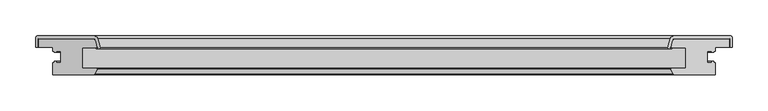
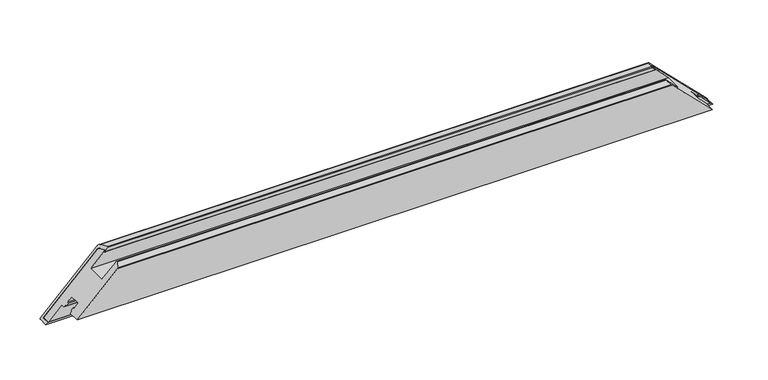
"""IFC4 building model written with IfcOpenShell, lengths in millimetres: proxy geometry, Weiku - Montante - Folha 02.2.01.018 : Weiku - Montante - Folha 02.2.01.018."""

from ifc_helpers import new_model, si_unit, frame, origin, place, context, project, spatial, polyline, ellipse_curve, source, transform, mapped, element, save
from ifc_brep_helpers import plane_surface, cylinder_surface, revolved_surface, advanced_brep


def generic_models_fcd0b337(model_context):
    return source(origin(), model_context, "Body", "AdvancedBrep", [
        advanced_brep(
        [(480.6, 50.0, 0.0), (403.5997332, 50.0, 77.0002668), (-403.5997332, 50.0, 77.0002668), (-480.6, 50.0, 0.0), (400.7019557, 47.7764571, 79.8980443), (-400.7019557, 47.7764571, 79.8980443), (398.1170371, 38.1294095, 82.4829629), (-398.1170371, 38.1294095, 82.4829629), (398.6, 37.5, 82.0), (-398.6, 37.5, 82.0), (399.4560102, 37.5, 81.1439898), (-399.4560102, 37.5, 81.1439898), (399.4560102, 36.5, 81.1439898), (-399.4560102, 36.5, 81.1439898), (394.8425588, 36.5, 85.7574412), (-394.8425588, 36.5, 85.7574412), (393.8766329, 37.758819, 86.7233671), (-393.8766329, 37.758819, 86.7233671), (397.2354501, 50.2940952, 83.3645499), (-397.2354501, 50.2940952, 83.3645499), (402.0650792, 54.0, 78.5349208), (-402.0650792, 54.0, 78.5349208), (481.6, 54.0, -1.0), (-481.6, 54.0, -1.0), (483.6, 52.0, -3.0), (-483.6, 52.0, -3.0), (483.6, 38.5, -3.0), (-483.6, 38.5, -3.0), (480.6, 38.5, 0.0), (-480.6, 38.5, 0.0)],
        [
            (0, 1),
            (1, 2),
            (2, 3),
            (3, 0),
            (1, 4, ellipse_curve(frame((403.5997332, 47.0, 77.0002668), z_axis=(0.707106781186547, 0.0, 0.7071067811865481), x_axis=(0.7071067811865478, 0.0, -0.707106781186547)), 4.2426407, 3.0)),
            (4, 5),
            (5, 2, ellipse_curve(frame((-403.5997332, 47.0, 77.0002668), z_axis=(-0.7071067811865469, 0.0, 0.7071067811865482), x_axis=(0.707106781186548, 0.0, 0.7071067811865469)), 4.2426407, 3.0)),
            (4, 6),
            (6, 7),
            (7, 5),
            (6, 8, ellipse_curve(frame((398.6, 38.0, 82.0), z_axis=(0.707106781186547, 0.0, 0.7071067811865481), x_axis=(0.7071067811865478, 0.0, -0.707106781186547)), 0.7071068, 0.5)),
            (8, 9),
            (9, 7, ellipse_curve(frame((-398.6, 38.0, 82.0), z_axis=(-0.7071067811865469, 0.0, 0.7071067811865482), x_axis=(0.707106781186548, 0.0, 0.7071067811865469)), 0.7071068, 0.5)),
            (8, 10),
            (10, 11),
            (11, 9),
            (10, 12, ellipse_curve(frame((399.4560102, 37.0, 81.1439898), z_axis=(-0.707106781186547, 0.0, -0.7071067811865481), x_axis=(-0.7071067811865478, 0.0, 0.707106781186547)), 0.7071068, 0.5)),
            (12, 13),
            (13, 11, ellipse_curve(frame((-399.4560102, 37.0, 81.1439898), z_axis=(0.7071067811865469, 0.0, -0.7071067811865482), x_axis=(-0.707106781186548, 0.0, -0.7071067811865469)), 0.7071068, 0.5)),
            (12, 14),
            (14, 15),
            (15, 13),
            (14, 16, ellipse_curve(frame((394.8425588, 37.5, 85.7574412), z_axis=(-0.707106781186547, 0.0, -0.7071067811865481), x_axis=(-0.7071067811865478, 0.0, 0.707106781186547)), 1.4142136, 1.0)),
            (16, 17),
            (17, 15, ellipse_curve(frame((-394.8425588, 37.5, 85.7574412), z_axis=(0.7071067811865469, 0.0, -0.7071067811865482), x_axis=(-0.707106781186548, 0.0, -0.7071067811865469)), 1.4142136, 1.0)),
            (16, 18),
            (18, 19),
            (19, 17),
            (18, 20, ellipse_curve(frame((402.0650792, 49.0, 78.5349208), z_axis=(-0.707106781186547, 0.0, -0.7071067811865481), x_axis=(-0.7071067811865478, 0.0, 0.707106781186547)), 7.0710678, 5.0)),
            (20, 21),
            (21, 19, ellipse_curve(frame((-402.0650792, 49.0, 78.5349208), z_axis=(0.7071067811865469, 0.0, -0.7071067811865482), x_axis=(-0.707106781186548, 0.0, -0.7071067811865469)), 7.0710678, 5.0)),
            (20, 22),
            (22, 23),
            (23, 21),
            (22, 24, ellipse_curve(frame((481.6, 52.0, -1.0), z_axis=(-0.707106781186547, 0.0, -0.7071067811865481), x_axis=(-0.7071067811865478, 0.0, 0.707106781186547)), 2.8284271, 2.0)),
            (24, 25),
            (25, 23, ellipse_curve(frame((-481.6, 52.0, -1.0), z_axis=(0.7071067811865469, 0.0, -0.7071067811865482), x_axis=(-0.707106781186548, 0.0, -0.7071067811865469)), 2.8284271, 2.0)),
            (24, 26),
            (26, 27),
            (27, 25),
            (26, 28),
            (28, 29),
            (29, 27),
            (28, 0),
            (3, 29),
        ],
        [
            plane_surface(frame((-500.6, 50.0, 0.0), z_axis=(0.0, -1.0, 0.0), x_axis=(1.0, 0.0, 0.0))),
            revolved_surface(polyline([(406.5997332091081, 50.0, 77.0002668), (-406.5997332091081, 50.0, 77.0002668)]), (-500.6, 47.0, 77.0002668), (1.0, 0.0, 0.0)),
            plane_surface(frame((-500.6, 47.7764571, 79.8980443), z_axis=(0.0, -0.2588190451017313, -0.9659258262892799), x_axis=(1.0, 0.0, 0.0))),
            revolved_surface(polyline([(399.1000000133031, 38.5, 82.0), (-399.10000001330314, 38.5, 82.0)]), (-500.6, 38.0, 82.0), (1.0, 0.0, 0.0)),
            plane_surface(frame((-500.6, 37.5, 82.0), z_axis=(0.0, 1.0, 0.0), x_axis=(1.0, 0.0, 0.0))),
            cylinder_surface(frame((-500.6, 37.0, 81.1439898), z_axis=(-1.0, 0.0, 0.0), x_axis=(0.0, 1.0, 0.0)), 0.5),
            plane_surface(frame((-500.6, 36.5, 81.1439898), z_axis=(0.0, -1.0, 0.0), x_axis=(1.0, 0.0, 0.0))),
            cylinder_surface(frame((-500.6, 37.5, 85.7574412), z_axis=(-1.0, 0.0, 0.0), x_axis=(0.0, 1.0, 0.0)), 1.0),
            plane_surface(frame((-500.6, 37.758819, 86.7233671), z_axis=(0.0, 0.25881904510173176, 0.9659258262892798), x_axis=(1.0, 0.0, 0.0))),
            cylinder_surface(frame((-500.6, 49.0, 78.5349208), z_axis=(-1.0, 0.0, 0.0), x_axis=(0.0, 1.0, 0.0)), 5.0),
            plane_surface(frame((-500.6, 54.0, 78.5349208), z_axis=(0.0, 1.0, 0.0), x_axis=(1.0, 0.0, 0.0))),
            cylinder_surface(frame((-500.6, 52.0, -1.0), z_axis=(-1.0, 0.0, 0.0), x_axis=(0.0, 1.0, 0.0)), 2.0),
            plane_surface(frame((-500.6, 52.0, -3.0), z_axis=(0.0, 0.0, -1.0), x_axis=(1.0, 0.0, 0.0))),
            plane_surface(frame((-500.6, 38.5, -3.0), z_axis=(0.0, -1.0, 0.0), x_axis=(1.0, 0.0, 0.0))),
            plane_surface(frame((-500.6, 38.5, 0.0), z_axis=(0.0, 0.0, 1.0), x_axis=(1.0, 0.0, 0.0))),
            plane_surface(frame((390.6, 0.0, 90.0), z_axis=(0.707106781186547, 0.0, 0.7071067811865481), x_axis=(0.0, 1.0, 0.0))),
            plane_surface(frame((-508.8842712, 0.0, -28.2842712), z_axis=(-0.7071067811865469, 0.0, 0.7071067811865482), x_axis=(0.0, 1.0, 0.0))),
        ],
        [
            (0, [[1, 2, 3, 4]]),
            (1, [[5, 6, 7, -2]]),
            (2, [[8, 9, 10, -6]]),
            (3, [[11, 12, 13, -9]]),
            (4, [[14, 15, 16, -12]]),
            (5, [[17, 18, 19, -15]]),
            (6, [[20, 21, 22, -18]]),
            (7, [[23, 24, 25, -21]]),
            (8, [[26, 27, 28, -24]]),
            (9, [[29, 30, 31, -27]]),
            (10, [[32, 33, 34, -30]]),
            (11, [[35, 36, 37, -33]]),
            (12, [[38, 39, 40, -36]]),
            (13, [[41, 42, 43, -39]]),
            (14, [[44, -4, 45, -42]]),
            (15, [[-1, -44, -41, -38, -35, -32, -29, -26, -23, -20, -17, -14, -11, -8, -5]]),
            (16, [[-3, -7, -10, -13, -16, -19, -22, -25, -28, -31, -34, -37, -40, -43, -45]]),
        ],
    ),
        advanced_brep(
        [(480.6, 50.0, 0.0), (-480.6, 50.0, 0.0), (-403.5997332, 50.0, 77.0002668), (403.5997332, 50.0, 77.0002668), (480.6, 38.5, 0.0), (-480.6, 38.5, 0.0), (-402.5872264, 0.0, 78.0127736), (-460.6, 0.0, 20.0), (460.6, 0.0, 20.0), (402.5872264, 0.0, 78.0127736), (-460.6, 38.5, 20.0), (-460.6, 33.1, 20.0), (-458.4, 33.1, 22.2), (-458.4, 31.1, 22.2), (-455.6, 31.1, 25.0), (-455.6, 33.1, 25.0), (-449.1, 33.1, 31.5), (-449.1, 16.9, 31.5), (-455.6, 16.9, 25.0), (-455.6, 18.9, 25.0), (-458.4, 18.9, 22.2), (-458.4, 16.9, 22.2), (-460.6, 16.9, 20.0), (-401.6932657, 0.5518546, 78.9067343), (-398.1512796, 7.617411, 82.4487204), (-399.3134285, 9.5, 81.2865715), (-419.1, 9.5, 61.5), (-419.1, 37.5, 61.5), (-398.6, 37.5, 82.0), (-398.1170371, 38.1294095, 82.4829629), (-400.7019557, 47.7764571, 79.8980443), (400.7019557, 47.7764571, 79.8980443), (398.1170371, 38.1294095, 82.4829629), (398.6, 37.5, 82.0), (419.1, 37.5, 61.5), (419.1, 9.5, 61.5), (399.3134285, 9.5, 81.2865715), (398.1512796, 7.617411, 82.4487204), (401.6932657, 0.5518546, 78.9067343), (460.6, 16.9, 20.0), (458.4, 16.9, 22.2), (458.4, 18.9, 22.2), (455.6, 18.9, 25.0), (455.6, 16.9, 25.0), (449.1, 16.9, 31.5), (449.1, 33.1, 31.5), (455.6, 33.1, 25.0), (455.6, 31.1, 25.0), (458.4, 31.1, 22.2), (458.4, 33.1, 22.2), (460.6, 33.1, 20.0), (460.6, 38.5, 20.0)],
        [
            (0, 1),
            (1, 2),
            (2, 3),
            (3, 0),
            (0, 4),
            (4, 5),
            (5, 1),
            (6, 7),
            (7, 8),
            (8, 9),
            (9, 6),
            (5, 10),
            (10, 11),
            (11, 12),
            (12, 13),
            (13, 14),
            (14, 15),
            (15, 16),
            (16, 17),
            (17, 18),
            (18, 19),
            (19, 20),
            (20, 21),
            (21, 22),
            (22, 7),
            (6, 23, ellipse_curve(frame((-402.5872264, 1.0, 78.0127736), z_axis=(-0.7071067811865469, 0.0, 0.7071067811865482), x_axis=(-0.707106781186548, 0.0, -0.7071067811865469)), 1.4142136, 1.0)),
            (23, 24),
            (24, 25, ellipse_curve(frame((-399.3134285, 8.2, 81.2865715), z_axis=(-0.7071067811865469, 0.0, 0.7071067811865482), x_axis=(-0.707106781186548, 0.0, -0.7071067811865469)), 1.8384776, 1.3)),
            (25, 26),
            (26, 27),
            (27, 28),
            (28, 29, ellipse_curve(frame((-398.6, 38.0, 82.0), z_axis=(-0.7071067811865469, 0.0, 0.7071067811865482), x_axis=(-0.707106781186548, 0.0, -0.7071067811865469)), 0.7071068, 0.5)),
            (29, 30),
            (30, 2, ellipse_curve(frame((-403.5997332, 47.0, 77.0002668), z_axis=(-0.7071067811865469, 0.0, 0.7071067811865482), x_axis=(-0.707106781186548, 0.0, -0.7071067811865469)), 4.2426407, 3.0)),
            (3, 31, ellipse_curve(frame((403.5997332, 47.0, 77.0002668), z_axis=(0.707106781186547, 0.0, 0.7071067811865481), x_axis=(-0.7071067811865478, 0.0, 0.707106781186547)), 4.2426407, 3.0)),
            (31, 32),
            (32, 33, ellipse_curve(frame((398.6, 38.0, 82.0), z_axis=(0.707106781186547, 0.0, 0.7071067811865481), x_axis=(-0.7071067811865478, 0.0, 0.707106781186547)), 0.7071068, 0.5)),
            (33, 34),
            (34, 35),
            (35, 36),
            (36, 37, ellipse_curve(frame((399.3134285, 8.2, 81.2865715), z_axis=(0.707106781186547, 0.0, 0.7071067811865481), x_axis=(-0.7071067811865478, 0.0, 0.707106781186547)), 1.8384776, 1.3)),
            (37, 38),
            (38, 9, ellipse_curve(frame((402.5872264, 1.0, 78.0127736), z_axis=(0.707106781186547, 0.0, 0.7071067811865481), x_axis=(-0.7071067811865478, 0.0, 0.707106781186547)), 1.4142136, 1.0)),
            (8, 39),
            (39, 40),
            (40, 41),
            (41, 42),
            (42, 43),
            (43, 44),
            (44, 45),
            (45, 46),
            (46, 47),
            (47, 48),
            (48, 49),
            (49, 50),
            (50, 51),
            (51, 4),
            (38, 23),
            (37, 24),
            (36, 25),
            (35, 26),
            (34, 27),
            (33, 28),
            (32, 29),
            (31, 30),
            (51, 10),
            (50, 11),
            (49, 12),
            (48, 13),
            (47, 14),
            (46, 15),
            (45, 16),
            (44, 17),
            (43, 18),
            (42, 19),
            (41, 20),
            (40, 21),
            (39, 22),
        ],
        [
            plane_surface(frame((-480.6, 50.0, 77.0002668), z_axis=(0.0, 1.0, 0.0), x_axis=(1.0, 0.0, 0.0))),
            plane_surface(frame((-480.6, 50.0, 0.0), z_axis=(0.0, 0.0, -1.0), x_axis=(1.0, 0.0, 0.0))),
            plane_surface(frame((-480.6, 0.0, 20.0), z_axis=(0.0, -1.0, 0.0), x_axis=(1.0, 0.0, 0.0))),
            plane_surface(frame((-508.8842712, 0.0, -28.2842712), z_axis=(-0.7071067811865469, 0.0, 0.7071067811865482), x_axis=(0.0, 1.0, 0.0))),
            plane_surface(frame((390.6, 0.0, 90.0), z_axis=(0.707106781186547, 0.0, 0.7071067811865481), x_axis=(0.0, 1.0, 0.0))),
            cylinder_surface(frame((-480.6, 1.0, 78.0127736), z_axis=(-1.0, 0.0, 0.0), x_axis=(0.0, 1.0, 0.0)), 1.0),
            plane_surface(frame((-480.6, 0.5518546, 78.9067343), z_axis=(0.0, -0.4481453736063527, 0.8939606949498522), x_axis=(1.0, 0.0, 0.0))),
            cylinder_surface(frame((-480.6, 8.2, 81.2865715), z_axis=(-1.0, 0.0, 0.0), x_axis=(0.0, 1.0, 0.0)), 1.3),
            plane_surface(frame((-480.6, 9.5, 81.2865715), z_axis=(0.0, 1.0, 0.0), x_axis=(1.0, 0.0, 0.0))),
            plane_surface(frame((-480.6, 9.5, 61.5), z_axis=(0.0, 0.0, 1.0), x_axis=(1.0, 0.0, 0.0))),
            plane_surface(frame((-480.6, 37.5, 61.5), z_axis=(0.0, -1.0, 0.0), x_axis=(1.0, 0.0, 0.0))),
            cylinder_surface(frame((-480.6, 38.0, 82.0), z_axis=(-1.0, 0.0, 0.0), x_axis=(0.0, 1.0, 0.0)), 0.5),
            plane_surface(frame((-480.6, 38.1294095, 82.4829629), z_axis=(0.0, 0.2588190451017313, 0.9659258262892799), x_axis=(1.0, 0.0, 0.0))),
            cylinder_surface(frame((-480.6, 47.0, 77.0002668), z_axis=(-1.0, 0.0, 0.0), x_axis=(0.0, 1.0, 0.0)), 3.0),
            plane_surface(frame((-480.6, 38.5, 0.0), z_axis=(0.0, -1.0, 0.0), x_axis=(1.0, 0.0, 0.0))),
            plane_surface(frame((-480.6, 38.5, 20.0), z_axis=(0.0, 0.0, -1.0), x_axis=(1.0, 0.0, 0.0))),
            plane_surface(frame((-480.6, 33.1, 20.0), z_axis=(0.0, -1.0, 0.0), x_axis=(1.0, 0.0, 0.0))),
            plane_surface(frame((-480.6, 33.1, 22.2), z_axis=(0.0, 0.0, -1.0), x_axis=(1.0, 0.0, 0.0))),
            plane_surface(frame((-480.6, 31.1, 22.2), z_axis=(0.0, -1.0, 0.0), x_axis=(1.0, 0.0, 0.0))),
            plane_surface(frame((-480.6, 31.1, 25.0), z_axis=(0.0, 0.0, 1.0), x_axis=(1.0, 0.0, 0.0))),
            plane_surface(frame((-480.6, 33.1, 25.0), z_axis=(0.0, -1.0, 0.0), x_axis=(1.0, 0.0, 0.0))),
            plane_surface(frame((-480.6, 33.1, 31.5), z_axis=(0.0, 0.0, -1.0), x_axis=(1.0, 0.0, 0.0))),
            plane_surface(frame((-480.6, 16.9, 31.5), z_axis=(0.0, 1.0, 0.0), x_axis=(1.0, 0.0, 0.0))),
            plane_surface(frame((-480.6, 16.9, 25.0), z_axis=(0.0, 0.0, 1.0), x_axis=(1.0, 0.0, 0.0))),
            plane_surface(frame((-480.6, 18.9, 25.0), z_axis=(0.0, 1.0, 0.0), x_axis=(1.0, 0.0, 0.0))),
            plane_surface(frame((-480.6, 18.9, 22.2), z_axis=(0.0, 0.0, -1.0), x_axis=(1.0, 0.0, 0.0))),
            plane_surface(frame((-480.6, 16.9, 22.2), z_axis=(0.0, 1.0, 0.0), x_axis=(1.0, 0.0, 0.0))),
            plane_surface(frame((-480.6, 16.9, 20.0), z_axis=(0.0, 0.0, -1.0), x_axis=(1.0, 0.0, 0.0))),
        ],
        [
            (0, [[1, 2, 3, 4]]),
            (1, [[-1, 5, 6, 7]]),
            (2, [[8, 9, 10, 11]]),
            (3, [[-2, -7, 12, 13, 14, 15, 16, 17, 18, 19, 20, 21, 22, 23, 24, 25, -8, 26, 27, 28, 29, 30, 31, 32, 33, 34]]),
            (4, [[-4, 35, 36, 37, 38, 39, 40, 41, 42, 43, -10, 44, 45, 46, 47, 48, 49, 50, 51, 52, 53, 54, 55, 56, 57, -5]]),
            (5, [[-26, -11, -43, 58]]),
            (6, [[-27, -58, -42, 59]]),
            (7, [[-28, -59, -41, 60]]),
            (8, [[-29, -60, -40, 61]]),
            (9, [[-30, -61, -39, 62]]),
            (10, [[-31, -62, -38, 63]]),
            (11, [[-32, -63, -37, 64]]),
            (12, [[-33, -64, -36, 65]]),
            (13, [[-34, -65, -35, -3]]),
            (14, [[-6, -57, 66, -12]]),
            (15, [[-13, -66, -56, 67]]),
            (16, [[-14, -67, -55, 68]]),
            (17, [[-15, -68, -54, 69]]),
            (18, [[-16, -69, -53, 70]]),
            (19, [[-17, -70, -52, 71]]),
            (20, [[-18, -71, -51, 72]]),
            (21, [[-19, -72, -50, 73]]),
            (22, [[-20, -73, -49, 74]]),
            (23, [[-21, -74, -48, 75]]),
            (24, [[-22, -75, -47, 76]]),
            (25, [[-23, -76, -46, 77]]),
            (26, [[-24, -77, -45, 78]]),
            (27, [[-25, -78, -44, -9]]),
        ],
    ),
    ])


if __name__ == "__main__":
    model = new_model("IFC4")
    model_context = context("Model", 3, world=origin())
    ifc_project = project(units=[si_unit("LENGTHUNIT", "METRE", prefix="MILLI")], contexts=[model_context])
    site = spatial("IfcSite", under=ifc_project)
    building = spatial("IfcBuilding", under=site)
    placement = place(None, origin())
    generic_models_shape = generic_models_fcd0b337(model_context)
    element("IfcBuildingElementProxy", 1, Name="Weiku - Montante - Folha 02.2.01.018 : Weiku - Montante - Folha 02.2.01.018", ObjectType="Weiku - Montante - Folha 02.2.01.018 : Weiku - Montante - Folha 02.2.01.018", at=placement, inside=building, context=model_context, shape_type="MappedRepresentation", body=[
        mapped(generic_models_shape, transform((0.0, 0.0, 0.0), x_axis=(1.0, 0.0, 0.0), y_axis=(0.0, 1.0, 0.0), z_axis=(0.0, 0.0, 1.0))),
    ])
    save(model, "model.ifc")
